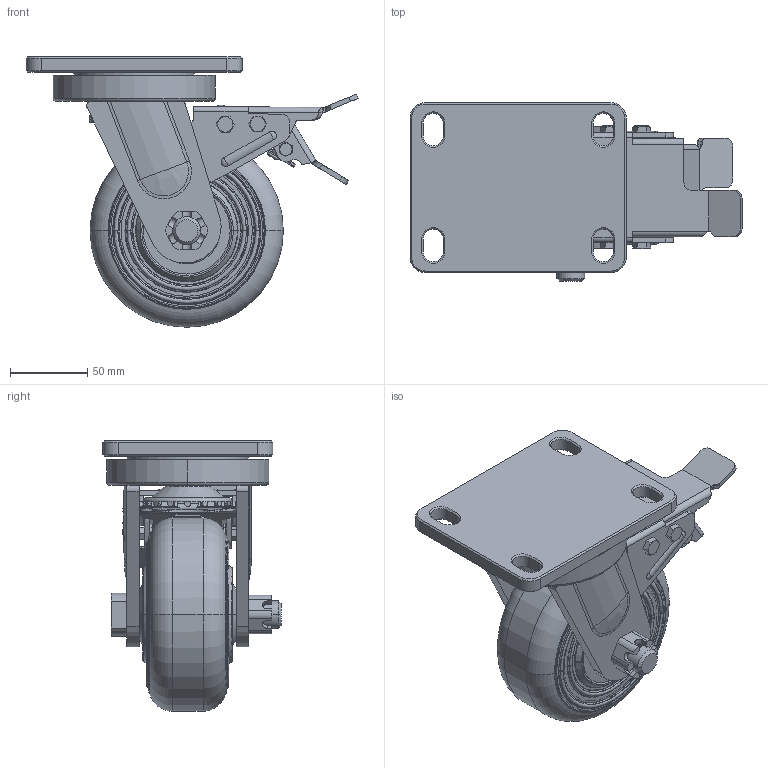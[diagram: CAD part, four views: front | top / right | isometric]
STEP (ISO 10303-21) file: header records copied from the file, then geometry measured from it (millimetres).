
FILE_DESCRIPTION(/* description */ (''),/* implementation_level */ '2;1');
FILE_NAME(/* name */ '35B02_5_R.stp',/* time_stamp */ '2022-08-27T16:19:42+08:00',/* author */ (''),/* organization */ (''),/* preprocessor_version */ 'ST-DEVELOPER v14',/* originating_system */ 'SIEMENS PLM Software NX 8.0',/* authorisation */ '');
FILE_SCHEMA (('AUTOMOTIVE_DESIGN { 1 0 10303 214 3 1 1 1 }'));
Products named in the file (1): 35B02_5_R
Bounding box: 214.83 x 115.5 x 175 mm (x, y, z)
Volume: 898321.3 mm3; surface area: 209977.9 mm2
Topology: 1 solids, 9 shells, 1098 faces, 2946 edges, 1918 vertices
Faces by surface type: plane 503, cylinder 343, torus 120, cone 84, extrusion 22, bspline 20, sphere 6
Full cylindrical faces by diameter (mm): 4 x2, 4.2 x2, 5 x1, 5.2 x3, 5.997 x19, 6 x2, 6.2 x9, 7.78 x1, 9.78 x2, 22.276 x1, 78 x1
Entity records: 50546 total; most frequent: CARTESIAN_POINT 23429, DIRECTION 5842, ORIENTED_EDGE 5604, EDGE_CURVE 2802, AXIS2_PLACEMENT_3D 2318, VERTEX_POINT 1846, EDGE_LOOP 1246, VECTOR 1206
